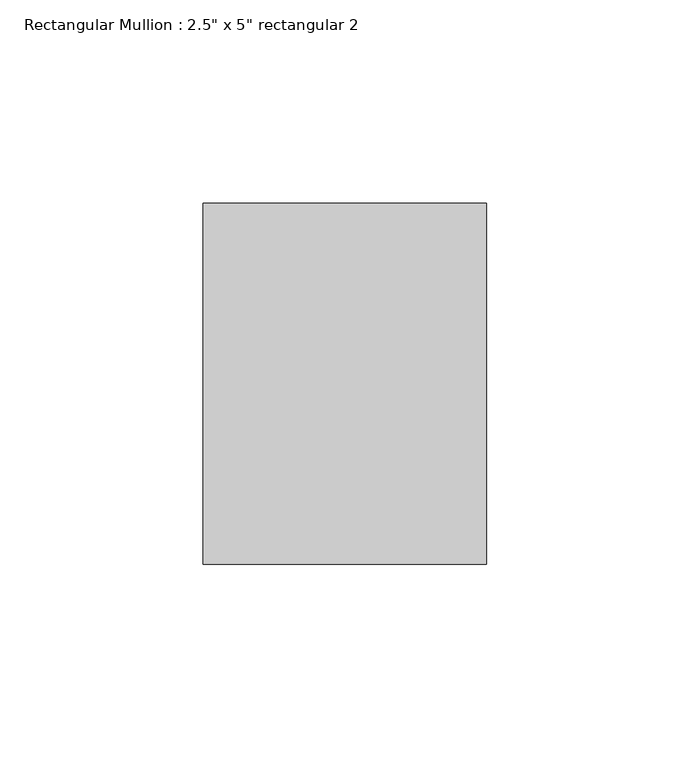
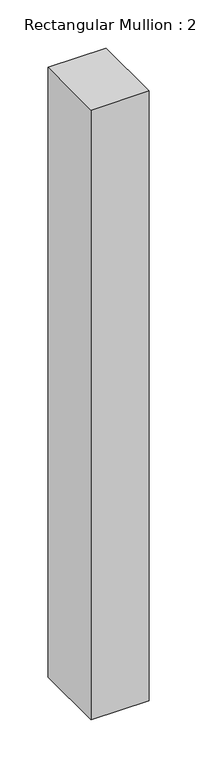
"""IFC4 building model written with IfcOpenShell, lengths in millimetres: member geometry."""

from ifc_helpers import new_model, si_unit, frame, origin, place, context, project, spatial, polyline, outline, extrude, source, transform, mapped, element, save


def member_24e91046(model_context):
    return source(origin(), model_context, "Body", "SweptSolid", [
        extrude(outline(polyline([(0.0, 44.45), (0.0, -44.45), (-69.85, -44.45), (-69.85, 44.45), (0.0, 44.45)])), frame((0.0, 0.0, -772.6086377), z_axis=(0.0, 0.0, 1.0), x_axis=(1.0, 0.0, 0.0)), (0.0, 0.0, 1.0), 772.6086377),
    ])


if __name__ == "__main__":
    model = new_model("IFC4")
    model_context = context("Model", 3, world=origin())
    ifc_project = project(units=[si_unit("LENGTHUNIT", "METRE", prefix="MILLI")], contexts=[model_context])
    site = spatial("IfcSite", under=ifc_project)
    building = spatial("IfcBuilding", under=site)
    placement = place(None, origin())
    member_shape = member_24e91046(model_context)
    element("IfcMember", 1, ObjectType="Rectangular Mullion : 2.5\" x 5\" rectangular 2", at=placement, inside=building, context=model_context, shape_type="MappedRepresentation", body=[
        mapped(member_shape, transform((0.0, 0.0, 0.0), x_axis=(1.0, 0.0, 0.0), y_axis=(0.0, 1.0, 0.0), z_axis=(0.0, 0.0, 1.0))),
    ])
    save(model, "model.ifc")
